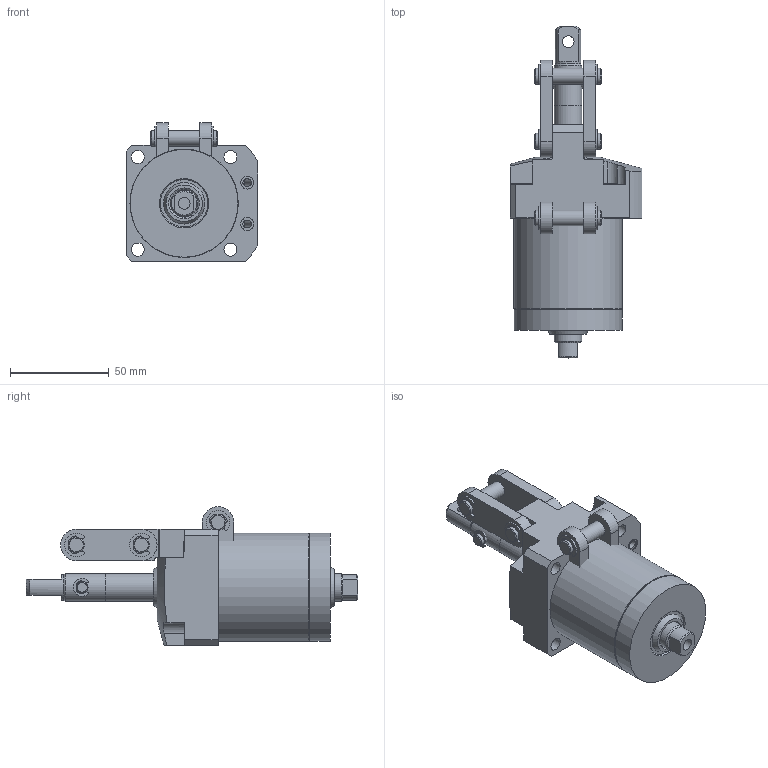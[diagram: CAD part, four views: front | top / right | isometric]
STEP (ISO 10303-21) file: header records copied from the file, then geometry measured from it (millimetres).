
FILE_DESCRIPTION( ( '' ), '1' );
FILE_NAME( 'W:/Catalogue/JL5H/JL5H34-25GLD/JL5H34-25GLD.stp', '2008-05-26T01:30:53', ( '機械事業部産業機器グループ' ), ( '豊和工業株式会社' ), 'XStep 1.0', ' ', ' ' );
FILE_SCHEMA( ( 'CONFIG_CONTROL_DESIGN' ) );
Length unit declared in the file: millimetre
Products named in the file (6): Assem1; 1; 2; 3; 4; 5
Bounding box: 67 x 168.5 x 70.5 mm (x, y, z)
Volume: 480645.2 mm3; surface area: 107416.8 mm2
Topology: 11 solids, 17 shells, 640 faces, 1621 edges, 1055 vertices
Faces by surface type: plane 338, cylinder 236, cone 62, torus 4
Full cylindrical faces by diameter (mm): 2 x2, 4 x8, 5.5 x2, 6 x18, 6.5 x4, 6.6 x8, 8 x14, 8.3 x4, 13 x2, 14 x8, 16 x4, 20 x4, 24 x8, 34 x4, 54 x2, 54.7 x2, 55 x2
Entity records: 9406 total; most frequent: CARTESIAN_POINT 1795, DIRECTION 1611, ORIENTED_EDGE 1372, EDGE_CURVE 686, AXIS2_PLACEMENT_3D 638, VERTEX_POINT 489, EDGE_LOOP 439, FACE_OUTER_BOUND 362
